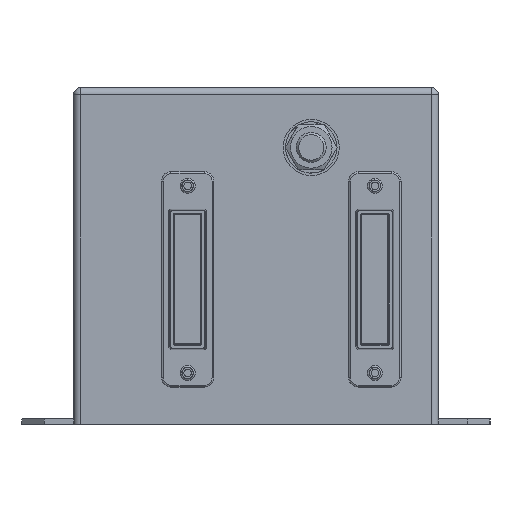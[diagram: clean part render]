
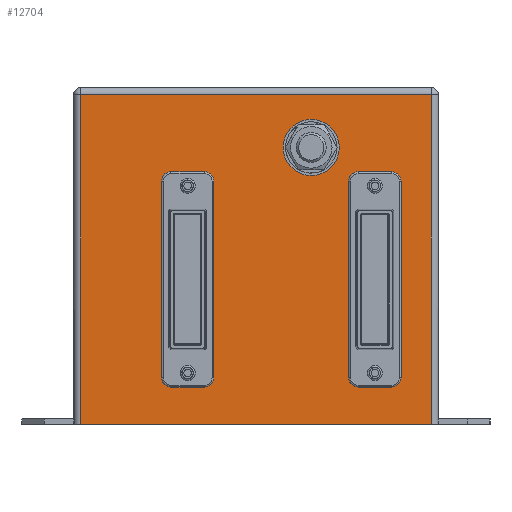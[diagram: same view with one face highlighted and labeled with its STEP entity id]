
A CAD part, left-side view. The second image highlights one B-rep face of the part: STEP entity #12704.
In plain terms, the highlighted planar face has unit normal (-1, 0, 0).
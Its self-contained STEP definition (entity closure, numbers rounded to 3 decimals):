
#8995=CARTESIAN_POINT('',(-200.0,-77.5,25.));
#8996=VERTEX_POINT('',#8995);
#8997=CARTESIAN_POINT('',(-200.0,-72.5,20.));
#8998=VERTEX_POINT('',#8997);
#8999=CARTESIAN_POINT('',(-200.0,-72.5,25.));
#9000=DIRECTION('',(1.0,0.0,0.0));
#9001=DIRECTION('',(0.0,-0.707,-0.707));
#9002=AXIS2_PLACEMENT_3D('',#8999,#9000,#9001);
#9003=CIRCLE('',#9002,5.);
#9004=EDGE_CURVE('',#8996,#8998,#9003,.T.);
#9053=CARTESIAN_POINT('',(-200.0,-77.5,130.));
#9054=VERTEX_POINT('',#9053);
#9055=CARTESIAN_POINT('',(-200.0,-77.5,130.));
#9056=DIRECTION('',(0.0,0.0,-1.0));
#9057=VECTOR('',#9056,105.0);
#9058=LINE('',#9055,#9057);
#9059=EDGE_CURVE('',#9054,#8996,#9058,.T.);
#9102=CARTESIAN_POINT('',(-200.0,-72.5,135.));
#9103=VERTEX_POINT('',#9102);
#9104=CARTESIAN_POINT('',(-200.0,-72.5,130.));
#9105=DIRECTION('',(1.0,0.0,0.0));
#9106=DIRECTION('',(0.0,-0.707,0.707));
#9107=AXIS2_PLACEMENT_3D('',#9104,#9105,#9106);
#9108=CIRCLE('',#9107,5.);
#9109=EDGE_CURVE('',#9103,#9054,#9108,.T.);
#9153=CARTESIAN_POINT('',(-200.0,-54.5,135.));
#9154=VERTEX_POINT('',#9153);
#9155=CARTESIAN_POINT('',(-200.0,-54.5,135.));
#9156=DIRECTION('',(0.0,-1.0,0.0));
#9157=VECTOR('',#9156,18.);
#9158=LINE('',#9155,#9157);
#9159=EDGE_CURVE('',#9154,#9103,#9158,.T.);
#9202=CARTESIAN_POINT('',(-200.0,-49.5,130.));
#9203=VERTEX_POINT('',#9202);
#9204=CARTESIAN_POINT('',(-200.0,-54.5,130.));
#9205=DIRECTION('',(1.0,0.0,0.0));
#9206=DIRECTION('',(0.0,0.707,0.707));
#9207=AXIS2_PLACEMENT_3D('',#9204,#9205,#9206);
#9208=CIRCLE('',#9207,5.);
#9209=EDGE_CURVE('',#9203,#9154,#9208,.T.);
#9253=CARTESIAN_POINT('',(-200.0,-49.5,25.));
#9254=VERTEX_POINT('',#9253);
#9255=CARTESIAN_POINT('',(-200.0,-49.5,25.));
#9256=DIRECTION('',(0.0,0.0,1.0));
#9257=VECTOR('',#9256,105.0);
#9258=LINE('',#9255,#9257);
#9259=EDGE_CURVE('',#9254,#9203,#9258,.T.);
#9302=CARTESIAN_POINT('',(-200.0,-54.5,20.));
#9303=VERTEX_POINT('',#9302);
#9304=CARTESIAN_POINT('',(-200.0,-54.5,25.));
#9305=DIRECTION('',(1.0,0.0,0.0));
#9306=DIRECTION('',(0.0,0.707,-0.707));
#9307=AXIS2_PLACEMENT_3D('',#9304,#9305,#9306);
#9308=CIRCLE('',#9307,5.);
#9309=EDGE_CURVE('',#9303,#9254,#9308,.T.);
#9347=CARTESIAN_POINT('',(-200.0,-72.5,20.));
#9348=DIRECTION('',(0.0,1.0,0.0));
#9349=VECTOR('',#9348,18.);
#9350=LINE('',#9347,#9349);
#9351=EDGE_CURVE('',#8998,#9303,#9350,.T.);
#10329=CARTESIAN_POINT('',(-200.0,22.5,25.));
#10330=VERTEX_POINT('',#10329);
#10331=CARTESIAN_POINT('',(-200.0,27.5,20.));
#10332=VERTEX_POINT('',#10331);
#10333=CARTESIAN_POINT('',(-200.0,27.5,25.));
#10334=DIRECTION('',(1.0,0.0,0.0));
#10335=DIRECTION('',(0.0,-0.707,-0.707));
#10336=AXIS2_PLACEMENT_3D('',#10333,#10334,#10335);
#10337=CIRCLE('',#10336,5.);
#10338=EDGE_CURVE('',#10330,#10332,#10337,.T.);
#10387=CARTESIAN_POINT('',(-200.0,22.5,130.));
#10388=VERTEX_POINT('',#10387);
#10389=CARTESIAN_POINT('',(-200.0,22.5,130.));
#10390=DIRECTION('',(0.0,0.0,-1.0));
#10391=VECTOR('',#10390,105.0);
#10392=LINE('',#10389,#10391);
#10393=EDGE_CURVE('',#10388,#10330,#10392,.T.);
#10436=CARTESIAN_POINT('',(-200.0,27.5,135.));
#10437=VERTEX_POINT('',#10436);
#10438=CARTESIAN_POINT('',(-200.0,27.5,130.));
#10439=DIRECTION('',(1.0,0.0,0.0));
#10440=DIRECTION('',(0.0,-0.707,0.707));
#10441=AXIS2_PLACEMENT_3D('',#10438,#10439,#10440);
#10442=CIRCLE('',#10441,5.);
#10443=EDGE_CURVE('',#10437,#10388,#10442,.T.);
#10487=CARTESIAN_POINT('',(-200.0,45.5,135.));
#10488=VERTEX_POINT('',#10487);
#10489=CARTESIAN_POINT('',(-200.0,45.5,135.));
#10490=DIRECTION('',(0.0,-1.0,0.0));
#10491=VECTOR('',#10490,18.);
#10492=LINE('',#10489,#10491);
#10493=EDGE_CURVE('',#10488,#10437,#10492,.T.);
#10536=CARTESIAN_POINT('',(-200.0,50.5,130.));
#10537=VERTEX_POINT('',#10536);
#10538=CARTESIAN_POINT('',(-200.0,45.5,130.));
#10539=DIRECTION('',(1.0,0.0,0.0));
#10540=DIRECTION('',(0.0,0.707,0.707));
#10541=AXIS2_PLACEMENT_3D('',#10538,#10539,#10540);
#10542=CIRCLE('',#10541,5.);
#10543=EDGE_CURVE('',#10537,#10488,#10542,.T.);
#10587=CARTESIAN_POINT('',(-200.0,50.5,25.));
#10588=VERTEX_POINT('',#10587);
#10589=CARTESIAN_POINT('',(-200.0,50.5,25.));
#10590=DIRECTION('',(0.0,0.0,1.0));
#10591=VECTOR('',#10590,105.);
#10592=LINE('',#10589,#10591);
#10593=EDGE_CURVE('',#10588,#10537,#10592,.T.);
#10636=CARTESIAN_POINT('',(-200.0,45.5,20.));
#10637=VERTEX_POINT('',#10636);
#10638=CARTESIAN_POINT('',(-200.0,45.5,25.));
#10639=DIRECTION('',(1.0,0.0,0.0));
#10640=DIRECTION('',(0.0,0.707,-0.707));
#10641=AXIS2_PLACEMENT_3D('',#10638,#10639,#10640);
#10642=CIRCLE('',#10641,5.);
#10643=EDGE_CURVE('',#10637,#10588,#10642,.T.);
#10681=CARTESIAN_POINT('',(-200.0,27.5,20.));
#10682=DIRECTION('',(0.0,1.0,0.0));
#10683=VECTOR('',#10682,18.);
#10684=LINE('',#10681,#10683);
#10685=EDGE_CURVE('',#10332,#10637,#10684,.T.);
#10871=CARTESIAN_POINT('',(-200.0,-93.7,176.2));
#10872=VERTEX_POINT('',#10871);
#10924=CARTESIAN_POINT('',(-200.0,-93.7,0.0));
#10925=VERTEX_POINT('',#10924);
#10926=CARTESIAN_POINT('',(-200.0,-93.7,176.2));
#10927=DIRECTION('',(0.0,0.0,-1.0));
#10928=VECTOR('',#10927,176.2);
#10929=LINE('',#10926,#10928);
#10930=EDGE_CURVE('',#10872,#10925,#10929,.T.);
#10988=CARTESIAN_POINT('',(-200.0,93.7,176.2));
#10989=VERTEX_POINT('',#10988);
#11014=CARTESIAN_POINT('',(-200.0,93.7,0.0));
#11015=VERTEX_POINT('',#11014);
#11023=CARTESIAN_POINT('',(-200.0,93.7,0.0));
#11024=DIRECTION('',(0.0,0.0,1.0));
#11025=VECTOR('',#11024,176.2);
#11026=LINE('',#11023,#11025);
#11027=EDGE_CURVE('',#11015,#10989,#11026,.T.);
#11069=CARTESIAN_POINT('',(-200.0,93.7,176.2));
#11070=DIRECTION('',(0.0,-1.0,0.0));
#11071=VECTOR('',#11070,187.4);
#11072=LINE('',#11069,#11071);
#11073=EDGE_CURVE('',#10989,#10872,#11072,.T.);
#11698=CARTESIAN_POINT('',(-200.0,-93.7,0.0));
#11699=DIRECTION('',(0.0,1.0,0.0));
#11700=VECTOR('',#11699,187.4);
#11701=LINE('',#11698,#11700);
#11702=EDGE_CURVE('',#10925,#11015,#11701,.T.);
#12662=CARTESIAN_POINT('',(-200.0,97.5,0.0));
#12663=DIRECTION('',(-1.0,0.0,0.0));
#12664=DIRECTION('',(0.0,-1.0,0.0));
#12665=AXIS2_PLACEMENT_3D('',#12662,#12663,#12664);
#12666=PLANE('',#12665);
#12667=ORIENTED_EDGE('',*,*,#10930,.F.);
#12668=ORIENTED_EDGE('',*,*,#11073,.F.);
#12669=ORIENTED_EDGE('',*,*,#11027,.F.);
#12670=ORIENTED_EDGE('',*,*,#11702,.F.);
#12671=EDGE_LOOP('',(#12667,#12668,#12669,#12670));
#12672=FACE_OUTER_BOUND('',#12671,.T.);
#12673=ORIENTED_EDGE('',*,*,#10338,.T.);
#12674=ORIENTED_EDGE('',*,*,#10685,.T.);
#12675=ORIENTED_EDGE('',*,*,#10643,.T.);
#12676=ORIENTED_EDGE('',*,*,#10593,.T.);
#12677=ORIENTED_EDGE('',*,*,#10543,.T.);
#12678=ORIENTED_EDGE('',*,*,#10493,.T.);
#12679=ORIENTED_EDGE('',*,*,#10443,.T.);
#12680=ORIENTED_EDGE('',*,*,#10393,.T.);
#12681=EDGE_LOOP('',(#12673,#12674,#12675,#12676,#12677,#12678,#12679,#12680));
#12682=FACE_BOUND('',#12681,.T.);
#12683=ORIENTED_EDGE('',*,*,#9004,.T.);
#12684=ORIENTED_EDGE('',*,*,#9351,.T.);
#12685=ORIENTED_EDGE('',*,*,#9309,.T.);
#12686=ORIENTED_EDGE('',*,*,#9259,.T.);
#12687=ORIENTED_EDGE('',*,*,#9209,.T.);
#12688=ORIENTED_EDGE('',*,*,#9159,.T.);
#12689=ORIENTED_EDGE('',*,*,#9109,.T.);
#12690=ORIENTED_EDGE('',*,*,#9059,.T.);
#12691=EDGE_LOOP('',(#12683,#12684,#12685,#12686,#12687,#12688,#12689,#12690));
#12692=FACE_BOUND('',#12691,.T.);
#12693=CARTESIAN_POINT('',(-200.0,-18.25,148.));
#12694=VERTEX_POINT('',#12693);
#12695=CARTESIAN_POINT('',(-200.0,-29.5,148.));
#12696=DIRECTION('',(1.0,0.0,0.0));
#12697=DIRECTION('',(0.0,1.0,0.0));
#12698=AXIS2_PLACEMENT_3D('',#12695,#12696,#12697);
#12699=CIRCLE('',#12698,11.25);
#12700=EDGE_CURVE('',#12694,#12694,#12699,.T.);
#12701=ORIENTED_EDGE('',*,*,#12700,.T.);
#12702=EDGE_LOOP('',(#12701));
#12703=FACE_BOUND('',#12702,.T.);
#12704=ADVANCED_FACE('',(#12672,#12682,#12692,#12703),#12666,.T.);
